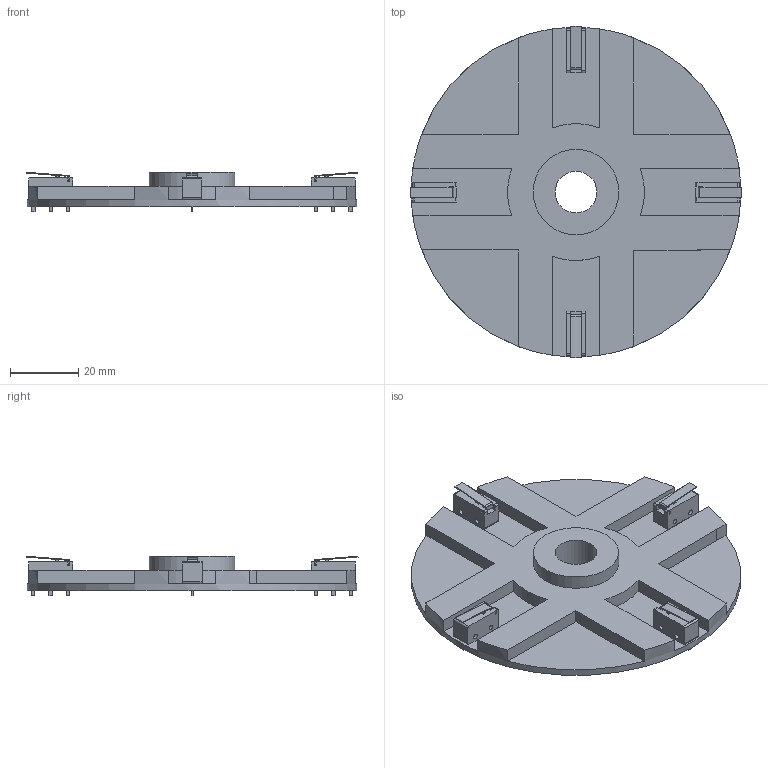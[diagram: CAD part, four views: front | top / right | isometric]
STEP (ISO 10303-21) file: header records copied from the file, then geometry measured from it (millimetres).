
FILE_DESCRIPTION(('HOOPS Exchange Step'),'2;1');
FILE_NAME('C:\Users\lindbee1\AppData\Local\Packages\Shapr3D.Shapr3D_j403pzjkqtqbj\TempState\export\temp_export','2023-09-07T14:22:08+03:00',('lindbee1'),('Shapr3D Limited'),'HOOPS Exchange 2023.2','Shapr3D','Authorized');
FILE_SCHEMA( ('AUTOMOTIVE_DESIGN { 1 0 10303 214 1 1 1 1 }') );
Length unit declared in the file: millimetre
Products named in the file (2): temp_import.SLDPRT; root
Assembly tree (1 placements, depth 2):
  root
    temp_import.SLDPRT
Bounding box: 97.03 x 97.13 x 11.54 mm (x, y, z)
Volume: 31970.5 mm3; surface area: 20467.9 mm2
Topology: 9 solids, 9 shells, 314 faces, 842 edges, 563 vertices
Faces by surface type: plane 266, cylinder 48
Full cylindrical faces by diameter (mm): 1.427 x4, 1.524 x4, 12.2 x1, 25 x1, 96.46 x1
Entity records: 9973 total; most frequent: CARTESIAN_POINT 1721, ORIENTED_EDGE 1684, DIRECTION 1591, EDGE_CURVE 842, VECTOR 725, LINE 725, VERTEX_POINT 563, AXIS2_PLACEMENT_3D 433
